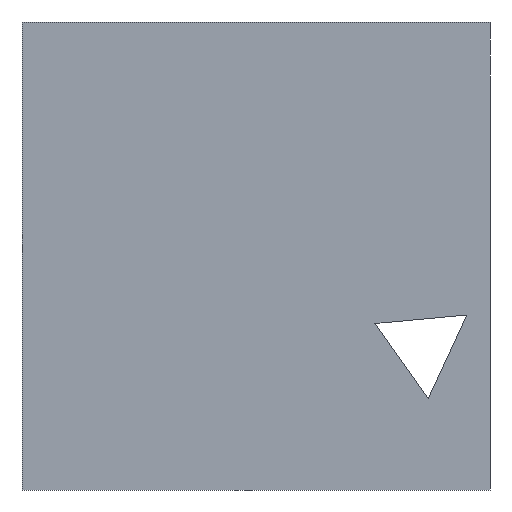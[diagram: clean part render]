
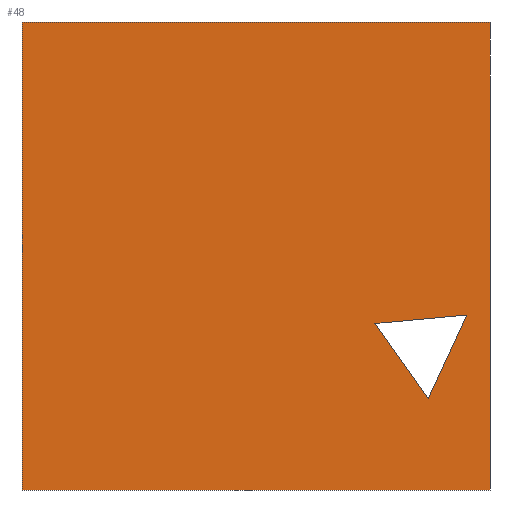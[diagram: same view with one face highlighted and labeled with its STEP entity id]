
A CAD part, front view. The second image highlights one B-rep face of the part: STEP entity #48.
In plain terms, the highlighted planar face has unit normal (0, -1, 0).
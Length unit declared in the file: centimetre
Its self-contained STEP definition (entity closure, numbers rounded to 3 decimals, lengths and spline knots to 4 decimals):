
#4 = EDGE_CURVE ( 'NONE', #345, #733, #592, .T. ) ;
#9 = LINE ( 'NONE', #603, #728 ) ;
#27 = EDGE_CURVE ( 'NONE', #629, #273, #632, .T. ) ;
#28 = LINE ( 'NONE', #439, #154 ) ;
#45 = DIRECTION ( 'NONE',  ( 0., 0., 1. ) ) ;
#48 = ADVANCED_FACE ( 'NONE', ( #111, #734 ), #459, .F. ) ;
#57 = VECTOR ( 'NONE', #558, 100. ) ;
#60 = CARTESIAN_POINT ( 'NONE',  ( 1000., 0., 1000. ) ) ;
#64 = ORIENTED_EDGE ( 'NONE', *, *, #207, .F. ) ;
#88 = CARTESIAN_POINT ( 'NONE',  ( 867.9815, 0., 194.9942 ) ) ;
#99 = EDGE_CURVE ( 'NONE', #733, #286, #9, .T. ) ;
#100 = CARTESIAN_POINT ( 'NONE',  ( 0., 0., 1000. ) ) ;
#111 = FACE_BOUND ( 'NONE', #507, .T. ) ;
#112 = CARTESIAN_POINT ( 'NONE',  ( 867.9815, 0., 194.9942 ) ) ;
#148 = ORIENTED_EDGE ( 'NONE', *, *, #294, .F. ) ;
#150 = VERTEX_POINT ( 'NONE', #600 ) ;
#154 = VECTOR ( 'NONE', #389, 100. ) ;
#200 = CARTESIAN_POINT ( 'NONE',  ( 950.2226, 0., 373.8973 ) ) ;
#207 = EDGE_CURVE ( 'NONE', #150, #629, #548, .T. ) ;
#211 = ORIENTED_EDGE ( 'NONE', *, *, #99, .T. ) ;
#226 = CARTESIAN_POINT ( 'NONE',  ( 754.1674, 0., 355.6686 ) ) ;
#229 = CARTESIAN_POINT ( 'NONE',  ( 0., 0., 1000. ) ) ;
#243 = AXIS2_PLACEMENT_3D ( 'NONE', #399, #344, #45 ) ;
#265 = VECTOR ( 'NONE', #584, 100. ) ;
#269 = CARTESIAN_POINT ( 'NONE',  ( 1000., 0., 0. ) ) ;
#273 = VERTEX_POINT ( 'NONE', #88 ) ;
#286 = VERTEX_POINT ( 'NONE', #269 ) ;
#294 = EDGE_CURVE ( 'NONE', #559, #286, #28, .T. ) ;
#306 = EDGE_CURVE ( 'NONE', #345, #559, #326, .T. ) ;
#326 = LINE ( 'NONE', #717, #57 ) ;
#344 = DIRECTION ( 'NONE',  ( 0., 1., 0. ) ) ;
#345 = VERTEX_POINT ( 'NONE', #100 ) ;
#389 = DIRECTION ( 'NONE',  ( 0., 0., -1. ) ) ;
#399 = CARTESIAN_POINT ( 'NONE',  ( 0., 0., 1000. ) ) ;
#402 = DIRECTION ( 'NONE',  ( 0.578, 0., -0.816 ) ) ;
#404 = DIRECTION ( 'NONE',  ( 0., 0., -1. ) ) ;
#439 = CARTESIAN_POINT ( 'NONE',  ( 1000., 0., 1000. ) ) ;
#446 = EDGE_LOOP ( 'NONE', ( #211, #148, #526, #748 ) ) ;
#459 = PLANE ( 'NONE',  #243 ) ;
#460 = ORIENTED_EDGE ( 'NONE', *, *, #27, .F. ) ;
#507 = EDGE_LOOP ( 'NONE', ( #64, #608, #460 ) ) ;
#526 = ORIENTED_EDGE ( 'NONE', *, *, #306, .F. ) ;
#534 = DIRECTION ( 'NONE',  ( 1., 0., 0. ) ) ;
#541 = CARTESIAN_POINT ( 'NONE',  ( 754.1674, 0., 355.6686 ) ) ;
#548 = LINE ( 'NONE', #200, #670 ) ;
#555 = EDGE_CURVE ( 'NONE', #273, #150, #637, .T. ) ;
#558 = DIRECTION ( 'NONE',  ( 1., 0., 0. ) ) ;
#559 = VERTEX_POINT ( 'NONE', #60 ) ;
#584 = DIRECTION ( 'NONE',  ( 0.418, 0., 0.909 ) ) ;
#592 = LINE ( 'NONE', #229, #605 ) ;
#600 = CARTESIAN_POINT ( 'NONE',  ( 950.2226, 0., 373.8973 ) ) ;
#603 = CARTESIAN_POINT ( 'NONE',  ( 0., 0., 0. ) ) ;
#605 = VECTOR ( 'NONE', #404, 100. ) ;
#608 = ORIENTED_EDGE ( 'NONE', *, *, #555, .F. ) ;
#629 = VERTEX_POINT ( 'NONE', #541 ) ;
#632 = LINE ( 'NONE', #226, #693 ) ;
#637 = LINE ( 'NONE', #112, #265 ) ;
#657 = DIRECTION ( 'NONE',  ( -0.996, 0., -0.093 ) ) ;
#670 = VECTOR ( 'NONE', #657, 100. ) ;
#693 = VECTOR ( 'NONE', #402, 100. ) ;
#706 = CARTESIAN_POINT ( 'NONE',  ( 0., 0., 0. ) ) ;
#717 = CARTESIAN_POINT ( 'NONE',  ( 0., 0., 1000. ) ) ;
#728 = VECTOR ( 'NONE', #534, 100. ) ;
#733 = VERTEX_POINT ( 'NONE', #706 ) ;
#734 = FACE_OUTER_BOUND ( 'NONE', #446, .T. ) ;
#748 = ORIENTED_EDGE ( 'NONE', *, *, #4, .T. ) ;
